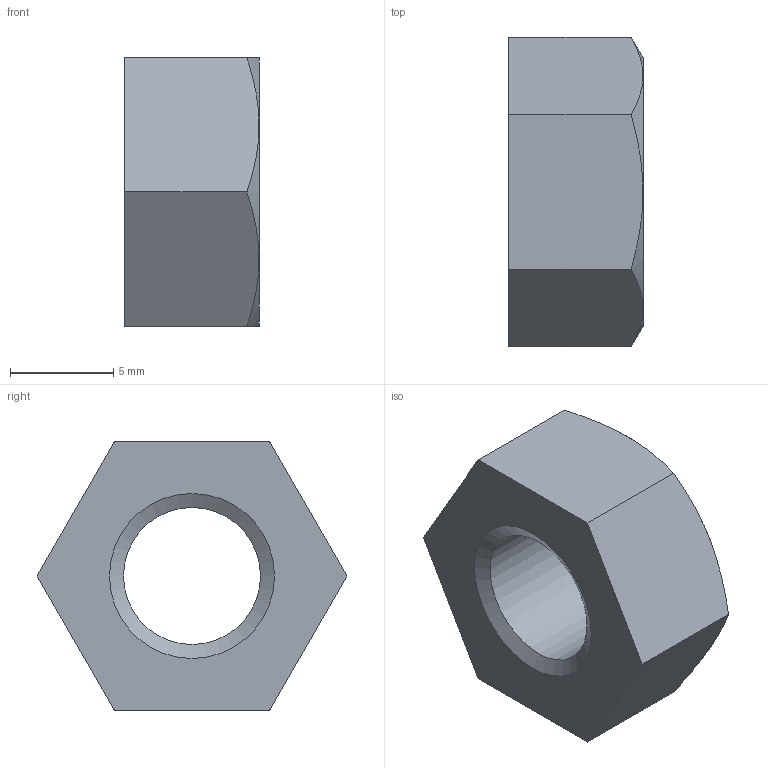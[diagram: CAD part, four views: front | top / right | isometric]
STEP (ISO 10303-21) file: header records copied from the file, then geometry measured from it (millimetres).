
FILE_DESCRIPTION(/* description */ (''),/* implementation_level */ '2;1');
FILE_NAME(/* name */ 'D:\조절자\NUT\M8 NUT.stp',/* time_stamp */ '2016-03-14T15:29:38+09:00',/* author */ ('GS-DT-1-001'),/* organization */ (''),/* preprocessor_version */ 'ST-DEVELOPER v15.6',/* originating_system */ 'Autodesk Inventor LT ',/* authorisation */ '');
FILE_SCHEMA (('AUTOMOTIVE_DESIGN { 1 0 10303 214 3 1 1 }'));
Length unit declared in the file: millimetre
Products named in the file (1): M8 NUT
Bounding box: 6.5 x 15.02 x 13 mm (x, y, z)
Volume: 718 mm3; surface area: 633.6 mm2
Topology: 1 solids, 1 shells, 12 faces, 30 edges, 20 vertices
Faces by surface type: plane 8, cone 3, cylinder 1
Full cylindrical faces by diameter (mm): 6.647 x1
Entity records: 334 total; most frequent: CARTESIAN_POINT 65, DIRECTION 48, ORIENTED_EDGE 46, EDGE_CURVE 23, EDGE_LOOP 18, AXIS2_PLACEMENT_3D 18, VERTEX_POINT 17, LINE 12
